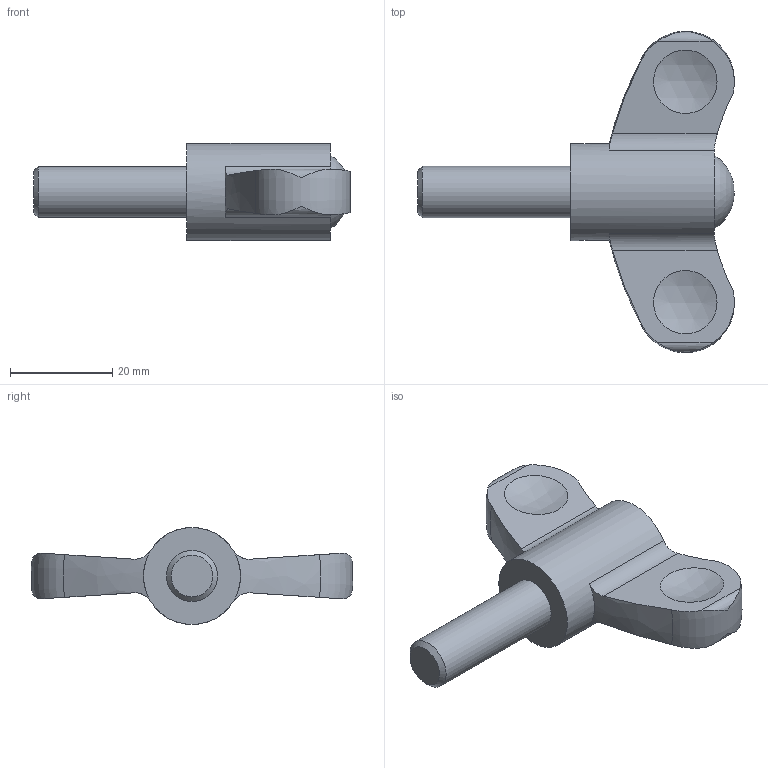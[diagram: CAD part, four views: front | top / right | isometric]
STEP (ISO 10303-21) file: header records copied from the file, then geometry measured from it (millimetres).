
FILE_DESCRIPTION( ( 'STEP AP203' ), '1' );
FILE_NAME( 'C:/Temp/Ganter_Step_05_03_2020/data/2_2/gn_633/Wing nut GN 633-63-M10-30-DGB.stp', '2020-03-05T12:21:12', ( 'License CC BY-ND 4.0' ), ( 'CADENAS' ), ' ', 'PARTsolutions', ' ' );
FILE_SCHEMA( ( 'CONFIG_CONTROL_DESIGN' ) );
Length unit declared in the file: millimetre
Products named in the file (1): _Wing nut GN 633-63-M10-30-DGB
Bounding box: 62 x 62.9 x 19 mm (x, y, z)
Volume: 16524.5 mm3; surface area: 5462 mm2
Topology: 1 solids, 1 shells, 29 faces, 75 edges, 52 vertices
Faces by surface type: cylinder 10, sphere 7, plane 6, bspline 3, torus 2, cone 1
Full cylindrical faces by diameter (mm): 10 x1, 19 x1
Entity records: 1209 total; most frequent: CARTESIAN_POINT 536, ORIENTED_EDGE 134, DIRECTION 112, EDGE_CURVE 67, AXIS2_PLACEMENT_3D 50, VERTEX_POINT 50, EDGE_LOOP 38, FACE_OUTER_BOUND 32
